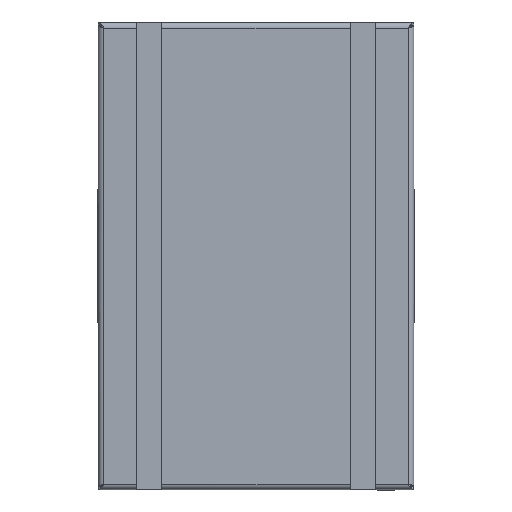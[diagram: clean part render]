
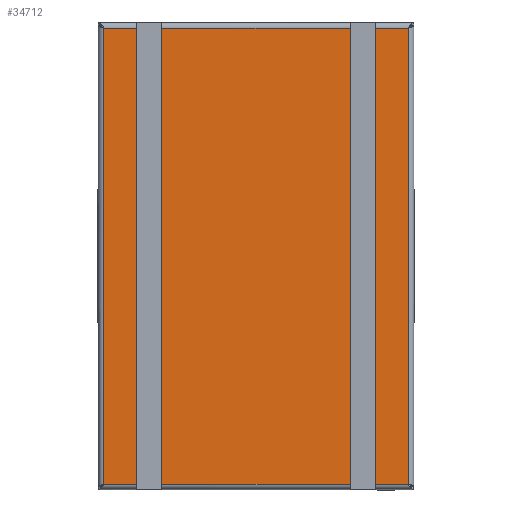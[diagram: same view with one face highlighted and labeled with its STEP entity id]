
A CAD part, top view. The second image highlights one B-rep face of the part: STEP entity #34712.
In plain terms, the highlighted planar face has unit normal (0, 0, 1).
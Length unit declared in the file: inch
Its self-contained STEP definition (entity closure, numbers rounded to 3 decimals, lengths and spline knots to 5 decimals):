
#2536 = EDGE_CURVE ( 'NONE', #71552, #58009, #45695, .T. ) ;
#4287 = ORIENTED_EDGE ( 'NONE', *, *, #2536, .T. ) ;
#9778 = DIRECTION ( 'NONE',  ( 0., -1., 0. ) ) ;
#10288 = CARTESIAN_POINT ( 'NONE',  ( -3.015, 4.515, 0. ) ) ;
#11714 = DIRECTION ( 'NONE',  ( 0., 0., -1. ) ) ;
#12180 = ORIENTED_EDGE ( 'NONE', *, *, #48012, .T. ) ;
#16536 = ORIENTED_EDGE ( 'NONE', *, *, #49735, .T. ) ;
#17665 = PLANE ( 'NONE',  #33173 ) ;
#23961 = EDGE_CURVE ( 'NONE', #49734, #71552, #38753, .T. ) ;
#24438 = FACE_OUTER_BOUND ( 'NONE', #35062, .T. ) ;
#28950 = DIRECTION ( 'NONE',  ( 1., 0., 0. ) ) ;
#29539 = LINE ( 'NONE', #51168, #42389 ) ;
#29971 = VECTOR ( 'NONE', #28950, 39.37008 ) ;
#33173 = AXIS2_PLACEMENT_3D ( 'NONE', #64795, #11714, #59092 ) ;
#34712 = ADVANCED_FACE ( 'NONE', ( #24438 ), #17665, .F. ) ;
#35062 = EDGE_LOOP ( 'NONE', ( #4287, #12180, #16536, #41050 ) ) ;
#35794 = CARTESIAN_POINT ( 'NONE',  ( -3.015, -4.515, 0. ) ) ;
#38753 = LINE ( 'NONE', #10288, #66555 ) ;
#41050 = ORIENTED_EDGE ( 'NONE', *, *, #23961, .T. ) ;
#42389 = VECTOR ( 'NONE', #68270, 39.37008 ) ;
#45695 = LINE ( 'NONE', #58469, #29971 ) ;
#48012 = EDGE_CURVE ( 'NONE', #58009, #67448, #29539, .T. ) ;
#49734 = VERTEX_POINT ( 'NONE', #75971 ) ;
#49735 = EDGE_CURVE ( 'NONE', #67448, #49734, #68169, .T. ) ;
#51168 = CARTESIAN_POINT ( 'NONE',  ( 3.015, -4.515, 0. ) ) ;
#51375 = CARTESIAN_POINT ( 'NONE',  ( 3.015, 4.515, 0. ) ) ;
#52441 = VECTOR ( 'NONE', #75197, 39.37008 ) ;
#58009 = VERTEX_POINT ( 'NONE', #62518 ) ;
#58469 = CARTESIAN_POINT ( 'NONE',  ( -3.015, -4.515, 0. ) ) ;
#59092 = DIRECTION ( 'NONE',  ( -1., 0., 0. ) ) ;
#62518 = CARTESIAN_POINT ( 'NONE',  ( 3.015, -4.515, 0. ) ) ;
#64795 = CARTESIAN_POINT ( 'NONE',  ( 0., 0., 0. ) ) ;
#66555 = VECTOR ( 'NONE', #9778, 39.37008 ) ;
#67448 = VERTEX_POINT ( 'NONE', #70953 ) ;
#68169 = LINE ( 'NONE', #51375, #52441 ) ;
#68270 = DIRECTION ( 'NONE',  ( 0., 1., 0. ) ) ;
#70953 = CARTESIAN_POINT ( 'NONE',  ( 3.015, 4.515, 0. ) ) ;
#71552 = VERTEX_POINT ( 'NONE', #35794 ) ;
#75197 = DIRECTION ( 'NONE',  ( -1., 0., 0. ) ) ;
#75971 = CARTESIAN_POINT ( 'NONE',  ( -3.015, 4.515, 0. ) ) ;
